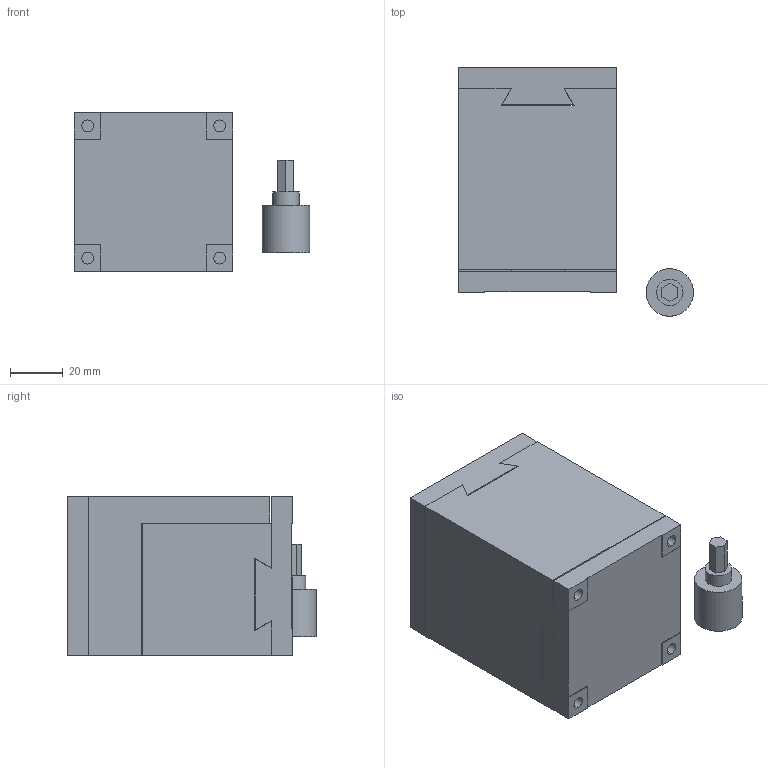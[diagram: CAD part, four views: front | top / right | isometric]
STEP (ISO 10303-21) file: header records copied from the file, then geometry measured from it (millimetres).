
FILE_DESCRIPTION (( 'STEP AP203' ), '1' );
FILE_NAME ('LT-613.STEP', '2008-04-09T06:28:43', ( '' ), ( '' ), 'SwSTEP 2.0', 'SolidWorks 2007', '' );
FILE_SCHEMA (( 'CONFIG_CONTROL_DESIGN' ));
Length unit declared in the file: millimetre
Products named in the file (6): LT-613; LT-613-1_蹬怮椔; LT-613-4_蹬怮椔; LT-613-3_蹬怮椔; LT-613-2_蹬怮椔; LT-613-5_蹬怮椔
Assembly tree (5 placements, depth 2):
  LT-613
    LT-613-3_蹬怮椔
    LT-613-4_蹬怮椔
    LT-613-5_蹬怮椔
    LT-613-1_蹬怮椔
    LT-613-2_蹬怮椔
Bounding box: 89 x 94 x 60 mm (x, y, z)
Volume: 301561.2 mm3; surface area: 65989.5 mm2
Topology: 5 solids, 5 shells, 162 faces, 402 edges, 268 vertices
Faces by surface type: plane 106, cylinder 56
Entity records: 5502 total; most frequent: DIRECTION 854, CARTESIAN_POINT 840, ORIENTED_EDGE 804, EDGE_CURVE 402, VECTOR 290, LINE 290, AXIS2_PLACEMENT_3D 282, VERTEX_POINT 268
